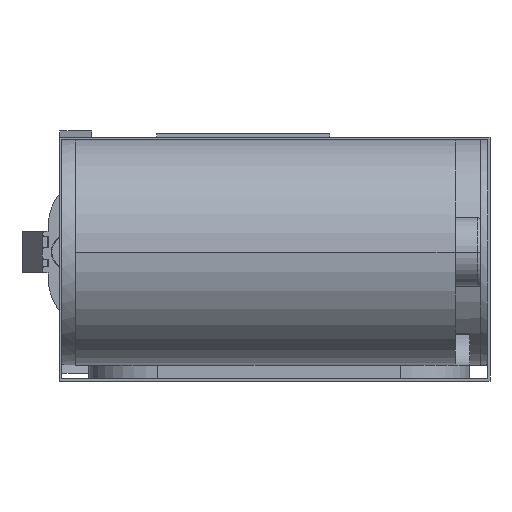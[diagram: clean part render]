
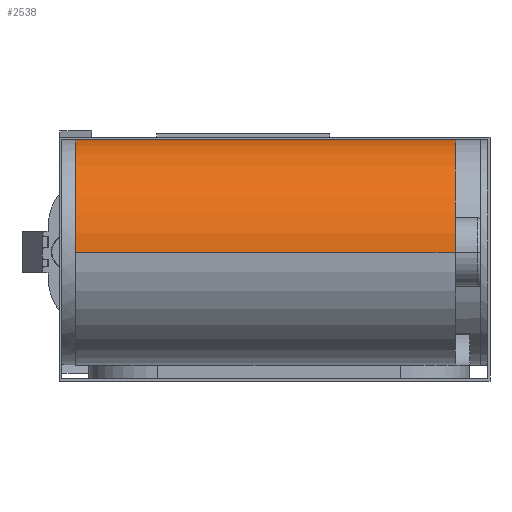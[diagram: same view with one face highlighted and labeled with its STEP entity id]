
A CAD part, left-side view. The second image highlights one B-rep face of the part: STEP entity #2538.
In plain terms, the highlighted cylindrical face has radius 16.3 mm (diameter 32.6 mm), a partial arc.
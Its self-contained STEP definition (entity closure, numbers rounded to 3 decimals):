
#72=CARTESIAN_POINT('',(16.3,5.25,18.595));
#73=DIRECTION('',(0.,1.,0.));
#74=DIRECTION('',(-1.,0.,0.));
#75=AXIS2_PLACEMENT_3D('',#72,#73,#74);
#92=DIRECTION('',(0.,-1.,0.));
#93=VECTOR('',#92,54.75);
#94=CARTESIAN_POINT('',(32.6,60.,18.595));
#95=LINE('',#94,#93);
#96=DIRECTION('',(0.,-1.,0.));
#97=VECTOR('',#96,54.75);
#98=CARTESIAN_POINT('',(0.,60.,18.595));
#99=LINE('',#98,#97);
#100=CARTESIAN_POINT('',(16.3,60.,18.595));
#101=DIRECTION('',(0.,-1.,0.));
#102=DIRECTION('',(1.,0.,0.));
#103=AXIS2_PLACEMENT_3D('',#100,#101,#102);
#2247=CARTESIAN_POINT('',(32.6,60.,18.595));
#2248=CARTESIAN_POINT('',(0.,60.,18.595));
#2249=VERTEX_POINT('',#2247);
#2250=VERTEX_POINT('',#2248);
#2251=CARTESIAN_POINT('',(0.,5.25,18.595));
#2252=CARTESIAN_POINT('',(32.6,5.25,18.595));
#2253=VERTEX_POINT('',#2251);
#2254=VERTEX_POINT('',#2252);
#2524=CARTESIAN_POINT('',(16.3,60.,18.595));
#2525=DIRECTION('',(0.,-1.,0.));
#2526=DIRECTION('',(1.,0.,0.));
#2527=AXIS2_PLACEMENT_3D('',#2524,#2525,#2526);
#2528=CYLINDRICAL_SURFACE('',#2527,16.3);
#2529=ORIENTED_EDGE('',*,*,#2511,.F.);
#2531=ORIENTED_EDGE('',*,*,#2530,.F.);
#2533=ORIENTED_EDGE('',*,*,#2532,.F.);
#2535=ORIENTED_EDGE('',*,*,#2534,.T.);
#2536=EDGE_LOOP('',(#2529,#2531,#2533,#2535));
#2537=FACE_OUTER_BOUND('',#2536,.F.);
#76=CIRCLE('',#75,16.3);
#104=CIRCLE('',#103,16.3);
#2511=EDGE_CURVE('',#2253,#2254,#76,.T.);
#2530=EDGE_CURVE('',#2250,#2253,#99,.T.);
#2532=EDGE_CURVE('',#2249,#2250,#104,.T.);
#2534=EDGE_CURVE('',#2249,#2254,#95,.T.);
#2538=ADVANCED_FACE('',(#2537),#2528,.T.);
